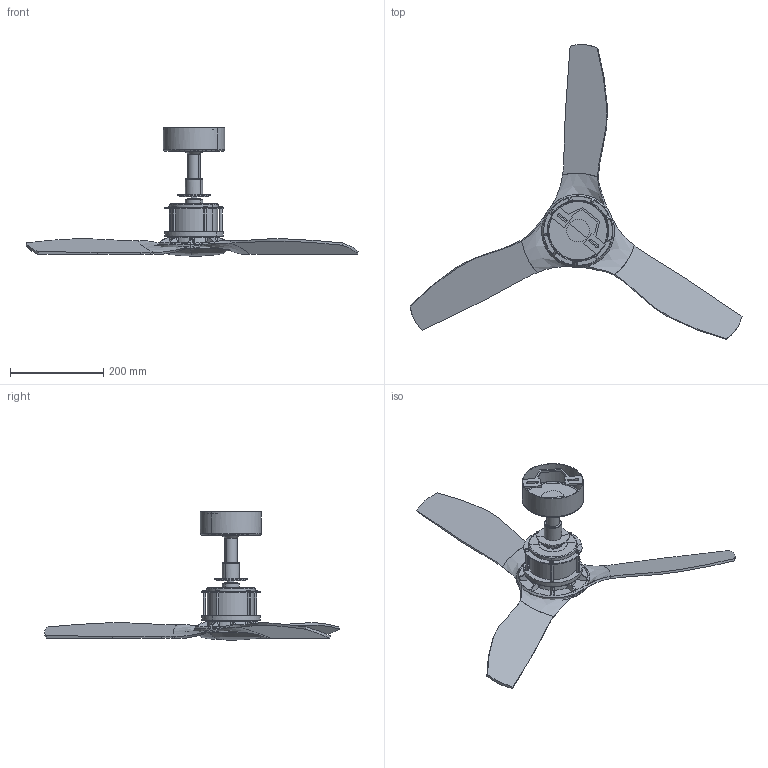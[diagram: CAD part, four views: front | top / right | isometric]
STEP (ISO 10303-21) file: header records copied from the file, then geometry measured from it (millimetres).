
FILE_DESCRIPTION(/* description */ (''),/* implementation_level */ '2;1');
FILE_NAME(/* name */ 'justfan_s_3d',/* time_stamp */ '2026-06-22T12:25:59+02:00',/* author */ (''),/* organization */ (''),/* preprocessor_version */ 'ST-DEVELOPER v19.2',/* originating_system */ 'Rhino 8.30',/* authorisation */ '');
FILE_SCHEMA (('CONFIG_CONTROL_DESIGN'));
Length unit declared in the file: millimetre
Products named in the file (1): Document
Bounding box: 710.28 x 630.77 x 274.96 mm (x, y, z)
Volume: 1202396.7 mm3; surface area: 427690.1 mm2
Topology: 22 solids, 45 shells, 526 faces, 1264 edges, 779 vertices
Faces by surface type: bspline 241, plane 148, cylinder 137
Entity records: 33581 total; most frequent: CARTESIAN_POINT 19361, ORIENTED_EDGE 2361, EDGE_CURVE 1215, DIRECTION 1131, B_SPLINE_CURVE_WITH_KNOTS 787, VERTEX_POINT 761, AXIS2_PLACEMENT_3D 708, EDGE_LOOP 573
